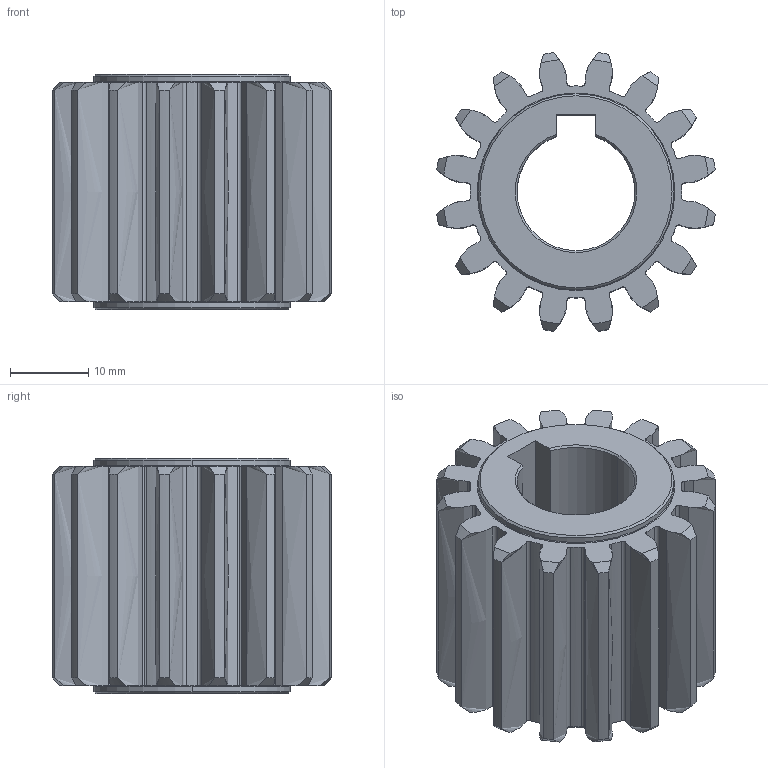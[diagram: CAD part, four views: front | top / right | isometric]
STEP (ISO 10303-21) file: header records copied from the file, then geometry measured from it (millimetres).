
FILE_DESCRIPTION (( 'STEP AP214' ), '1' );
FILE_NAME ('1SG__S020016S.STEP', '2021-08-03T07:25:01', ( '' ), ( '' ), 'SwSTEP 2.0', 'SolidWorks 2021', '' );
FILE_SCHEMA (( 'AUTOMOTIVE_DESIGN' ));
Length unit declared in the file: millimetre
Products named in the file (1): 1SG__S020016S
Bounding box: 35.54 x 35.54 x 30 mm (x, y, z)
Volume: 17097.7 mm3; surface area: 8564.7 mm2
Topology: 1 solids, 1 shells, 180 faces, 548 edges, 372 vertices
Faces by surface type: cylinder 63, bspline 48, cone 42, plane 23, torus 4
Entity records: 10218 total; most frequent: CARTESIAN_POINT 5449, ORIENTED_EDGE 1096, DIRECTION 890, EDGE_CURVE 548, VERTEX_POINT 372, AXIS2_PLACEMENT_3D 341, LINE 208, CIRCLE 208
